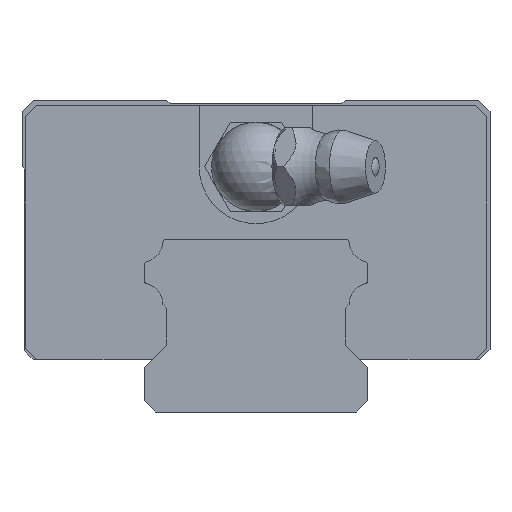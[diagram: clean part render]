
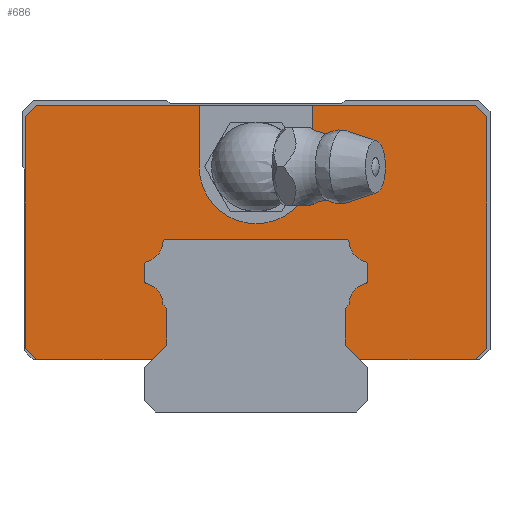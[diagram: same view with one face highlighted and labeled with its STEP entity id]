
A CAD part, front view. The second image highlights one B-rep face of the part: STEP entity #686.
In plain terms, the highlighted planar face has unit normal (0, -1, 0).
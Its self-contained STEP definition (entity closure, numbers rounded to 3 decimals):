
#526=CIRCLE('',#3118,0.3);
#528=CIRCLE('',#3121,1.9);
#530=CIRCLE('',#3130,1.9);
#532=CIRCLE('',#3133,0.3);
#534=CIRCLE('',#3137,0.3);
#536=CIRCLE('',#3140,1.9);
#538=CIRCLE('',#3143,0.3);
#540=CIRCLE('',#3147,0.3);
#542=CIRCLE('',#3150,1.9);
#544=CIRCLE('',#3153,0.3);
#556=CIRCLE('',#3181,5.1);
#686=ADVANCED_FACE('',(#925),#816,.T.);
#816=PLANE('',#3190);
#925=FACE_OUTER_BOUND('',#1086,.T.);
#1086=EDGE_LOOP('',(#1589,#1590,#1591,#1592,#1593,#1594,#1595,#1596,#1597,
#1598,#1599,#1600,#1601,#1602,#1603,#1604,#1605,#1606,#1607,#1608,#1609,
#1610,#1611,#1612,#1613,#1614,#1615,#1616,#1617,#1618,#1619,#1620));
#1589=ORIENTED_EDGE('',*,*,#2339,.F.);
#1590=ORIENTED_EDGE('',*,*,#2342,.F.);
#1591=ORIENTED_EDGE('',*,*,#2345,.F.);
#1592=ORIENTED_EDGE('',*,*,#2348,.F.);
#1593=ORIENTED_EDGE('',*,*,#2351,.F.);
#1594=ORIENTED_EDGE('',*,*,#2354,.F.);
#1595=ORIENTED_EDGE('',*,*,#2357,.F.);
#1596=ORIENTED_EDGE('',*,*,#2360,.F.);
#1597=ORIENTED_EDGE('',*,*,#2363,.F.);
#1598=ORIENTED_EDGE('',*,*,#2366,.F.);
#1599=ORIENTED_EDGE('',*,*,#2369,.F.);
#1600=ORIENTED_EDGE('',*,*,#2372,.F.);
#1601=ORIENTED_EDGE('',*,*,#2374,.F.);
#1602=ORIENTED_EDGE('',*,*,#2320,.F.);
#1603=ORIENTED_EDGE('',*,*,#2323,.F.);
#1604=ORIENTED_EDGE('',*,*,#2326,.F.);
#1605=ORIENTED_EDGE('',*,*,#2329,.F.);
#1606=ORIENTED_EDGE('',*,*,#2332,.F.);
#1607=ORIENTED_EDGE('',*,*,#2379,.F.);
#1608=ORIENTED_EDGE('',*,*,#2424,.F.);
#1609=ORIENTED_EDGE('',*,*,#2425,.F.);
#1610=ORIENTED_EDGE('',*,*,#2426,.F.);
#1611=ORIENTED_EDGE('',*,*,#2427,.F.);
#1612=ORIENTED_EDGE('',*,*,#2418,.T.);
#1613=ORIENTED_EDGE('',*,*,#2413,.T.);
#1614=ORIENTED_EDGE('',*,*,#2423,.T.);
#1615=ORIENTED_EDGE('',*,*,#2428,.F.);
#1616=ORIENTED_EDGE('',*,*,#2429,.F.);
#1617=ORIENTED_EDGE('',*,*,#2430,.F.);
#1618=ORIENTED_EDGE('',*,*,#2431,.F.);
#1619=ORIENTED_EDGE('',*,*,#2386,.F.);
#1620=ORIENTED_EDGE('',*,*,#2336,.F.);
#2018=VERTEX_POINT('',#4366);
#2020=VERTEX_POINT('',#4370);
#2022=VERTEX_POINT('',#4376);
#2024=VERTEX_POINT('',#4382);
#2026=VERTEX_POINT('',#4388);
#2028=VERTEX_POINT('',#4394);
#2030=VERTEX_POINT('',#4399);
#2032=VERTEX_POINT('',#4403);
#2034=VERTEX_POINT('',#4409);
#2036=VERTEX_POINT('',#4415);
#2038=VERTEX_POINT('',#4421);
#2040=VERTEX_POINT('',#4427);
#2042=VERTEX_POINT('',#4433);
#2044=VERTEX_POINT('',#4439);
#2046=VERTEX_POINT('',#4445);
#2048=VERTEX_POINT('',#4451);
#2050=VERTEX_POINT('',#4457);
#2052=VERTEX_POINT('',#4463);
#2054=VERTEX_POINT('',#4469);
#2056=VERTEX_POINT('',#4475);
#2060=VERTEX_POINT('',#4488);
#2062=VERTEX_POINT('',#4494);
#2089=VERTEX_POINT('',#4565);
#2090=VERTEX_POINT('',#4567);
#2094=VERTEX_POINT('',#4579);
#2096=VERTEX_POINT('',#4587);
#2097=VERTEX_POINT('',#4591);
#2098=VERTEX_POINT('',#4593);
#2099=VERTEX_POINT('',#4595);
#2100=VERTEX_POINT('',#4598);
#2101=VERTEX_POINT('',#4600);
#2102=VERTEX_POINT('',#4602);
#2320=EDGE_CURVE('',#2020,#2018,#526,.T.);
#2323=EDGE_CURVE('',#2022,#2020,#528,.T.);
#2326=EDGE_CURVE('',#2024,#2022,#2653,.T.);
#2329=EDGE_CURVE('',#2026,#2024,#2656,.T.);
#2332=EDGE_CURVE('',#2028,#2026,#2659,.T.);
#2336=EDGE_CURVE('',#2032,#2030,#2663,.T.);
#2339=EDGE_CURVE('',#2034,#2032,#2666,.T.);
#2342=EDGE_CURVE('',#2036,#2034,#2669,.T.);
#2345=EDGE_CURVE('',#2038,#2036,#530,.T.);
#2348=EDGE_CURVE('',#2040,#2038,#532,.T.);
#2351=EDGE_CURVE('',#2042,#2040,#2674,.T.);
#2354=EDGE_CURVE('',#2044,#2042,#534,.T.);
#2357=EDGE_CURVE('',#2046,#2044,#536,.T.);
#2360=EDGE_CURVE('',#2048,#2046,#538,.T.);
#2363=EDGE_CURVE('',#2050,#2048,#2680,.T.);
#2366=EDGE_CURVE('',#2052,#2050,#540,.T.);
#2369=EDGE_CURVE('',#2054,#2052,#542,.T.);
#2372=EDGE_CURVE('',#2056,#2054,#544,.T.);
#2374=EDGE_CURVE('',#2018,#2056,#2685,.T.);
#2379=EDGE_CURVE('',#2060,#2028,#2690,.T.);
#2386=EDGE_CURVE('',#2030,#2062,#2697,.T.);
#2413=EDGE_CURVE('',#2090,#2089,#556,.T.);
#2418=EDGE_CURVE('',#2094,#2090,#2715,.T.);
#2423=EDGE_CURVE('',#2089,#2096,#2720,.T.);
#2424=EDGE_CURVE('',#2097,#2060,#2721,.T.);
#2425=EDGE_CURVE('',#2098,#2097,#2722,.T.);
#2426=EDGE_CURVE('',#2099,#2098,#2723,.T.);
#2427=EDGE_CURVE('',#2094,#2099,#2724,.T.);
#2428=EDGE_CURVE('',#2100,#2096,#2725,.T.);
#2429=EDGE_CURVE('',#2101,#2100,#2726,.T.);
#2430=EDGE_CURVE('',#2102,#2101,#2727,.T.);
#2431=EDGE_CURVE('',#2062,#2102,#2728,.T.);
#2653=LINE('',#4383,#2891);
#2656=LINE('',#4389,#2894);
#2659=LINE('',#4395,#2897);
#2663=LINE('',#4404,#2901);
#2666=LINE('',#4410,#2904);
#2669=LINE('',#4416,#2907);
#2674=LINE('',#4434,#2912);
#2680=LINE('',#4458,#2918);
#2685=LINE('',#4479,#2923);
#2690=LINE('',#4489,#2928);
#2697=LINE('',#4501,#2935);
#2715=LINE('',#4578,#2953);
#2720=LINE('',#4588,#2958);
#2721=LINE('',#4590,#2959);
#2722=LINE('',#4592,#2960);
#2723=LINE('',#4594,#2961);
#2724=LINE('',#4596,#2962);
#2725=LINE('',#4597,#2963);
#2726=LINE('',#4599,#2964);
#2727=LINE('',#4601,#2965);
#2728=LINE('',#4603,#2966);
#2891=VECTOR('',#3586,1.);
#2894=VECTOR('',#3591,1.);
#2897=VECTOR('',#3596,1.);
#2901=VECTOR('',#3602,1.);
#2904=VECTOR('',#3607,1.);
#2907=VECTOR('',#3612,1.);
#2912=VECTOR('',#3631,1.);
#2918=VECTOR('',#3657,1.);
#2923=VECTOR('',#3682,1.);
#2928=VECTOR('',#3689,1.);
#2935=VECTOR('',#3698,1.);
#2953=VECTOR('',#3776,1.);
#2958=VECTOR('',#3785,1.);
#2959=VECTOR('',#3788,1.);
#2960=VECTOR('',#3789,1.);
#2961=VECTOR('',#3790,1.);
#2962=VECTOR('',#3791,1.);
#2963=VECTOR('',#3792,1.);
#2964=VECTOR('',#3793,1.);
#2965=VECTOR('',#3794,1.);
#2966=VECTOR('',#3795,1.);
#3118=AXIS2_PLACEMENT_3D('',#4371,#3573,#3574);
#3121=AXIS2_PLACEMENT_3D('',#4377,#3580,#3581);
#3130=AXIS2_PLACEMENT_3D('',#4422,#3618,#3619);
#3133=AXIS2_PLACEMENT_3D('',#4428,#3625,#3626);
#3137=AXIS2_PLACEMENT_3D('',#4440,#3637,#3638);
#3140=AXIS2_PLACEMENT_3D('',#4446,#3644,#3645);
#3143=AXIS2_PLACEMENT_3D('',#4452,#3651,#3652);
#3147=AXIS2_PLACEMENT_3D('',#4464,#3663,#3664);
#3150=AXIS2_PLACEMENT_3D('',#4470,#3670,#3671);
#3153=AXIS2_PLACEMENT_3D('',#4476,#3677,#3678);
#3181=AXIS2_PLACEMENT_3D('',#4566,#3762,#3763);
#3190=AXIS2_PLACEMENT_3D('',#4604,#3796,#3797);
#3573=DIRECTION('',(0.,-1.,0.));
#3574=DIRECTION('',(0.,0.,-1.));
#3580=DIRECTION('',(0.,1.,0.));
#3581=DIRECTION('',(0.,0.,-1.));
#3586=DIRECTION('',(0.707,0.,0.707));
#3591=DIRECTION('',(0.,0.,1.));
#3596=DIRECTION('',(-0.707,0.,0.707));
#3602=DIRECTION('',(-0.707,0.,-0.707));
#3607=DIRECTION('',(0.,0.,-1.));
#3612=DIRECTION('',(0.707,0.,-0.707));
#3618=DIRECTION('',(0.,1.,0.));
#3619=DIRECTION('',(0.,0.,-1.));
#3625=DIRECTION('',(0.,-1.,0.));
#3626=DIRECTION('',(0.,0.,-1.));
#3631=DIRECTION('',(0.,0.,-1.));
#3637=DIRECTION('',(0.,-1.,0.));
#3638=DIRECTION('',(0.,0.,-1.));
#3644=DIRECTION('',(0.,1.,0.));
#3645=DIRECTION('',(0.,0.,-1.));
#3651=DIRECTION('',(0.,-1.,0.));
#3652=DIRECTION('',(0.,0.,-1.));
#3657=DIRECTION('',(-1.,0.,0.));
#3663=DIRECTION('',(0.,-1.,0.));
#3664=DIRECTION('',(0.,0.,-1.));
#3670=DIRECTION('',(0.,1.,0.));
#3671=DIRECTION('',(0.,0.,-1.));
#3677=DIRECTION('',(0.,-1.,0.));
#3678=DIRECTION('',(0.,0.,-1.));
#3682=DIRECTION('',(0.,0.,1.));
#3689=DIRECTION('',(-1.,0.,0.));
#3698=DIRECTION('',(-1.,0.,0.));
#3762=DIRECTION('',(0.,1.,0.));
#3763=DIRECTION('',(-1.,0.,0.));
#3776=DIRECTION('',(0.,0.,-1.));
#3785=DIRECTION('',(0.,0.,1.));
#3788=DIRECTION('',(-0.707,0.,-0.707));
#3789=DIRECTION('',(0.,0.,-1.));
#3790=DIRECTION('',(0.707,0.,-0.707));
#3791=DIRECTION('',(1.,0.,0.));
#3792=DIRECTION('',(1.,0.,0.));
#3793=DIRECTION('',(0.707,0.,0.707));
#3794=DIRECTION('',(0.,0.,1.));
#3795=DIRECTION('',(-0.707,0.,0.707));
#3796=DIRECTION('',(0.,-1.,0.));
#3797=DIRECTION('',(0.,0.,-1.));
#4366=CARTESIAN_POINT('',(10.,-19.6,11.781));
#4370=CARTESIAN_POINT('',(9.775,-19.6,11.49));
#4371=CARTESIAN_POINT('',(9.7,-19.6,11.781));
#4376=CARTESIAN_POINT('',(8.349,-19.6,9.649));
#4377=CARTESIAN_POINT('',(10.249,-19.6,9.651));
#4382=CARTESIAN_POINT('',(8.,-19.6,9.3));
#4383=CARTESIAN_POINT('',(10.35,-19.6,11.65));
#4388=CARTESIAN_POINT('',(8.,-19.6,6.));
#4389=CARTESIAN_POINT('',(8.,-19.6,22.));
#4394=CARTESIAN_POINT('',(9.3,-19.6,4.7));
#4395=CARTESIAN_POINT('',(-4.,-19.6,18.));
#4399=CARTESIAN_POINT('',(-9.3,-19.6,4.7));
#4403=CARTESIAN_POINT('',(-8.,-19.6,6.));
#4404=CARTESIAN_POINT('',(4.,-19.6,18.));
#4409=CARTESIAN_POINT('',(-8.,-19.6,9.3));
#4410=CARTESIAN_POINT('',(-8.,-19.6,22.));
#4415=CARTESIAN_POINT('',(-8.349,-19.6,9.649));
#4416=CARTESIAN_POINT('',(-10.35,-19.6,11.65));
#4421=CARTESIAN_POINT('',(-9.775,-19.6,11.49));
#4422=CARTESIAN_POINT('',(-10.249,-19.6,9.651));
#4427=CARTESIAN_POINT('',(-10.,-19.6,11.781));
#4428=CARTESIAN_POINT('',(-9.7,-19.6,11.781));
#4433=CARTESIAN_POINT('',(-10.,-19.6,13.219));
#4434=CARTESIAN_POINT('',(-10.,-19.6,22.));
#4439=CARTESIAN_POINT('',(-9.775,-19.6,13.51));
#4440=CARTESIAN_POINT('',(-9.7,-19.6,13.219));
#4445=CARTESIAN_POINT('',(-8.354,-19.6,15.22));
#4446=CARTESIAN_POINT('',(-10.249,-19.6,15.349));
#4451=CARTESIAN_POINT('',(-8.055,-19.6,15.5));
#4452=CARTESIAN_POINT('',(-8.055,-19.6,15.2));
#4457=CARTESIAN_POINT('',(8.055,-19.6,15.5));
#4458=CARTESIAN_POINT('',(0.,-19.6,15.5));
#4463=CARTESIAN_POINT('',(8.354,-19.6,15.22));
#4464=CARTESIAN_POINT('',(8.055,-19.6,15.2));
#4469=CARTESIAN_POINT('',(9.775,-19.6,13.51));
#4470=CARTESIAN_POINT('',(10.249,-19.6,15.349));
#4475=CARTESIAN_POINT('',(10.,-19.6,13.219));
#4476=CARTESIAN_POINT('',(9.7,-19.6,13.219));
#4479=CARTESIAN_POINT('',(10.,-19.6,22.));
#4488=CARTESIAN_POINT('',(19.7,-19.6,4.7));
#4489=CARTESIAN_POINT('',(19.7,-19.6,4.7));
#4494=CARTESIAN_POINT('',(-19.7,-19.6,4.7));
#4501=CARTESIAN_POINT('',(19.7,-19.6,4.7));
#4565=CARTESIAN_POINT('',(-5.1,-19.6,22.));
#4566=CARTESIAN_POINT('',(0.,-19.6,22.));
#4567=CARTESIAN_POINT('',(5.1,-19.6,22.));
#4578=CARTESIAN_POINT('',(5.1,-19.6,27.5));
#4579=CARTESIAN_POINT('',(5.1,-19.6,27.5));
#4587=CARTESIAN_POINT('',(-5.1,-19.6,27.5));
#4588=CARTESIAN_POINT('',(-5.1,-19.6,22.));
#4590=CARTESIAN_POINT('',(20.7,-19.6,5.7));
#4591=CARTESIAN_POINT('',(20.7,-19.6,5.7));
#4592=CARTESIAN_POINT('',(20.7,-19.6,26.5));
#4593=CARTESIAN_POINT('',(20.7,-19.6,26.5));
#4594=CARTESIAN_POINT('',(19.7,-19.6,27.5));
#4595=CARTESIAN_POINT('',(19.7,-19.6,27.5));
#4596=CARTESIAN_POINT('',(-19.7,-19.6,27.5));
#4597=CARTESIAN_POINT('',(-19.7,-19.6,27.5));
#4598=CARTESIAN_POINT('',(-19.7,-19.6,27.5));
#4599=CARTESIAN_POINT('',(-20.7,-19.6,26.5));
#4600=CARTESIAN_POINT('',(-20.7,-19.6,26.5));
#4601=CARTESIAN_POINT('',(-20.7,-19.6,5.7));
#4602=CARTESIAN_POINT('',(-20.7,-19.6,5.7));
#4603=CARTESIAN_POINT('',(-19.7,-19.6,4.7));
#4604=CARTESIAN_POINT('',(0.,-19.6,22.));
